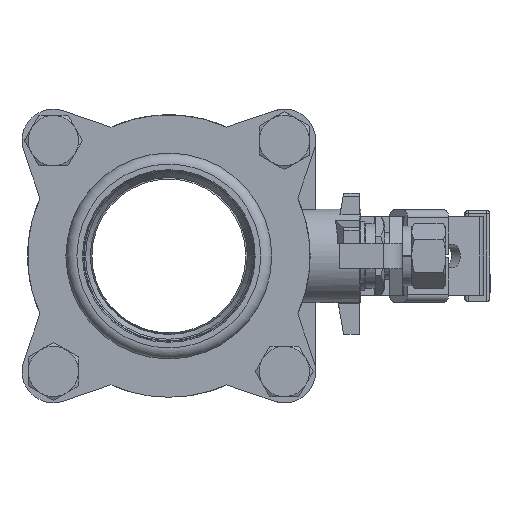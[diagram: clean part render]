
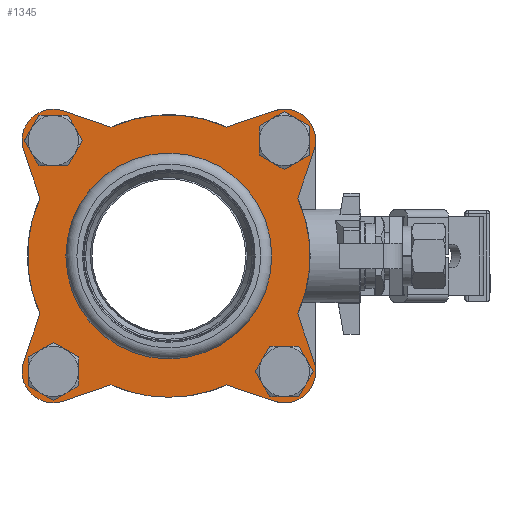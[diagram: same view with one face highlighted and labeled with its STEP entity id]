
A CAD part, front view. The second image highlights one B-rep face of the part: STEP entity #1345.
In plain terms, the highlighted planar face has unit normal (0, -1, 0) as drawn and (0, 0, -1) by its records, which use the part's own axes.
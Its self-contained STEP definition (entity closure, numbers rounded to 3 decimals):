
#1345=ADVANCED_FACE('',(#2648,#2649,#2650,#2651,#2652,#2653),#2654,.F.);
#2648=FACE_OUTER_BOUND('',#4056,.T.);
#2649=FACE_BOUND('',#4057,.T.);
#2650=FACE_BOUND('',#4058,.T.);
#2651=FACE_BOUND('',#4059,.T.);
#2652=FACE_BOUND('',#4060,.T.);
#2653=FACE_BOUND('',#4061,.T.);
#2654=PLANE('',#4062);
#4056=EDGE_LOOP('',(#6369,#6370,#6371,#6372,#6373,#6374,#6375,#6376,#6377,#6378,#6379,#6380,#6381,#6382,#6383,#6384));
#4057=EDGE_LOOP('',(#6385));
#4058=EDGE_LOOP('',(#6386));
#4059=EDGE_LOOP('',(#6387));
#4060=EDGE_LOOP('',(#6388));
#4061=EDGE_LOOP('',(#6389));
#4062=AXIS2_PLACEMENT_3D('',#6390,#6391,#6392);
#6369=ORIENTED_EDGE('',*,*,#8610,.F.);
#6370=ORIENTED_EDGE('',*,*,#8611,.F.);
#6371=ORIENTED_EDGE('',*,*,#8612,.F.);
#6372=ORIENTED_EDGE('',*,*,#8613,.F.);
#6373=ORIENTED_EDGE('',*,*,#8614,.F.);
#6374=ORIENTED_EDGE('',*,*,#8615,.F.);
#6375=ORIENTED_EDGE('',*,*,#8616,.F.);
#6376=ORIENTED_EDGE('',*,*,#8600,.F.);
#6377=ORIENTED_EDGE('',*,*,#8617,.F.);
#6378=ORIENTED_EDGE('',*,*,#8595,.F.);
#6379=ORIENTED_EDGE('',*,*,#8618,.F.);
#6380=ORIENTED_EDGE('',*,*,#8605,.F.);
#6381=ORIENTED_EDGE('',*,*,#8619,.F.);
#6382=ORIENTED_EDGE('',*,*,#8620,.F.);
#6383=ORIENTED_EDGE('',*,*,#8621,.F.);
#6384=ORIENTED_EDGE('',*,*,#8622,.F.);
#6385=ORIENTED_EDGE('',*,*,#8623,.F.);
#6386=ORIENTED_EDGE('',*,*,#8624,.F.);
#6387=ORIENTED_EDGE('',*,*,#8625,.F.);
#6388=ORIENTED_EDGE('',*,*,#8626,.F.);
#6389=ORIENTED_EDGE('',*,*,#8627,.F.);
#6390=CARTESIAN_POINT('',(-62.0,0.0,-45.85));
#6391=DIRECTION('',(0.0,0.,1.0));
#6392=DIRECTION('',(0.0,-1.0,0.));
#8595=EDGE_CURVE('',#10043,#10044,#10045,.T.);
#8600=EDGE_CURVE('',#10052,#10053,#10054,.T.);
#8605=EDGE_CURVE('',#10061,#10062,#10063,.T.);
#8610=EDGE_CURVE('',#10070,#10071,#10072,.T.);
#8611=EDGE_CURVE('',#10073,#10070,#10074,.T.);
#8612=EDGE_CURVE('',#10075,#10073,#10076,.T.);
#8613=EDGE_CURVE('',#10077,#10075,#10078,.T.);
#8614=EDGE_CURVE('',#10079,#10077,#10080,.T.);
#8615=EDGE_CURVE('',#10081,#10079,#10082,.T.);
#8616=EDGE_CURVE('',#10053,#10081,#10083,.T.);
#8617=EDGE_CURVE('',#10044,#10052,#10084,.T.);
#8618=EDGE_CURVE('',#10062,#10043,#10085,.T.);
#8619=EDGE_CURVE('',#10086,#10061,#10087,.T.);
#8620=EDGE_CURVE('',#10088,#10086,#10089,.T.);
#8621=EDGE_CURVE('',#10090,#10088,#10091,.T.);
#8622=EDGE_CURVE('',#10071,#10090,#10092,.T.);
#8623=EDGE_CURVE('',#10093,#10093,#10094,.T.);
#8624=EDGE_CURVE('',#10095,#10095,#10096,.T.);
#8625=EDGE_CURVE('',#10097,#10097,#10098,.T.);
#8626=EDGE_CURVE('',#10099,#10099,#10100,.T.);
#8627=EDGE_CURVE('',#10101,#10101,#10102,.T.);
#10043=VERTEX_POINT('',#12244);
#10044=VERTEX_POINT('',#12245);
#10045=LINE('',#12246,#12247);
#10052=VERTEX_POINT('',#12257);
#10053=VERTEX_POINT('',#12258);
#10054=LINE('',#12259,#12260);
#10061=VERTEX_POINT('',#12270);
#10062=VERTEX_POINT('',#12271);
#10063=LINE('',#12272,#12273);
#10070=VERTEX_POINT('',#12283);
#10071=VERTEX_POINT('',#12284);
#10072=CIRCLE('',#12285,10.);
#10073=VERTEX_POINT('',#12286);
#10074=LINE('',#12287,#12288);
#10075=VERTEX_POINT('',#12289);
#10076=CIRCLE('',#12290,45.0);
#10077=VERTEX_POINT('',#12291);
#10078=LINE('',#12292,#12293);
#10079=VERTEX_POINT('',#12294);
#10080=CIRCLE('',#12295,10.);
#10081=VERTEX_POINT('',#12296);
#10082=LINE('',#12297,#12298);
#10083=CIRCLE('',#12299,45.0);
#10084=CIRCLE('',#12300,10.);
#10085=CIRCLE('',#12301,45.0);
#10086=VERTEX_POINT('',#12302);
#10087=CIRCLE('',#12303,10.);
#10088=VERTEX_POINT('',#12304);
#10089=LINE('',#12305,#12306);
#10090=VERTEX_POINT('',#12307);
#10091=CIRCLE('',#12308,45.0);
#10092=LINE('',#12309,#12310);
#10093=VERTEX_POINT('',#12311);
#10094=CIRCLE('',#12312,5.5);
#10095=VERTEX_POINT('',#12313);
#10096=CIRCLE('',#12314,5.5);
#10097=VERTEX_POINT('',#12315);
#10098=CIRCLE('',#12316,5.5);
#10099=VERTEX_POINT('',#12317);
#10100=CIRCLE('',#12318,5.5);
#10101=VERTEX_POINT('',#12319);
#10102=CIRCLE('',#12320,29.0);
#12244=CARTESIAN_POINT('',(18.427,-41.054,-45.85));
#12245=CARTESIAN_POINT('',(33.528,-46.229,-45.85));
#12246=CARTESIAN_POINT('',(18.427,-41.054,-45.85));
#12247=VECTOR('',#14687,1.0);
#12257=CARTESIAN_POINT('',(46.229,-33.528,-45.85));
#12258=CARTESIAN_POINT('',(41.054,-18.427,-45.85));
#12259=CARTESIAN_POINT('',(46.229,-33.528,-45.85));
#12260=VECTOR('',#14691,1.0);
#12270=CARTESIAN_POINT('',(-33.528,-46.229,-45.85));
#12271=CARTESIAN_POINT('',(-18.427,-41.054,-45.85));
#12272=CARTESIAN_POINT('',(-33.528,-46.229,-45.85));
#12273=VECTOR('',#14695,1.0);
#12283=CARTESIAN_POINT('',(-33.528,46.229,-45.85));
#12284=CARTESIAN_POINT('',(-46.229,33.528,-45.85));
#12285=AXIS2_PLACEMENT_3D('',#14699,#14700,#14701);
#12286=CARTESIAN_POINT('',(-18.427,41.054,-45.85));
#12287=CARTESIAN_POINT('',(-18.427,41.054,-45.85));
#12288=VECTOR('',#14702,1.0);
#12289=CARTESIAN_POINT('',(18.427,41.054,-45.85));
#12290=AXIS2_PLACEMENT_3D('',#14703,#14704,#14705);
#12291=CARTESIAN_POINT('',(33.528,46.229,-45.85));
#12292=CARTESIAN_POINT('',(33.528,46.229,-45.85));
#12293=VECTOR('',#14706,1.0);
#12294=CARTESIAN_POINT('',(46.229,33.528,-45.85));
#12295=AXIS2_PLACEMENT_3D('',#14707,#14708,#14709);
#12296=CARTESIAN_POINT('',(41.054,18.427,-45.85));
#12297=CARTESIAN_POINT('',(41.054,18.427,-45.85));
#12298=VECTOR('',#14710,1.0);
#12299=AXIS2_PLACEMENT_3D('',#14711,#14712,#14713);
#12300=AXIS2_PLACEMENT_3D('',#14714,#14715,#14716);
#12301=AXIS2_PLACEMENT_3D('',#14717,#14718,#14719);
#12302=CARTESIAN_POINT('',(-46.229,-33.528,-45.85));
#12303=AXIS2_PLACEMENT_3D('',#14720,#14721,#14722);
#12304=CARTESIAN_POINT('',(-41.054,-18.427,-45.85));
#12305=CARTESIAN_POINT('',(-41.054,-18.427,-45.85));
#12306=VECTOR('',#14723,1.0);
#12307=CARTESIAN_POINT('',(-41.054,18.427,-45.85));
#12308=AXIS2_PLACEMENT_3D('',#14724,#14725,#14726);
#12309=CARTESIAN_POINT('',(-46.229,33.528,-45.85));
#12310=VECTOR('',#14727,1.0);
#12311=CARTESIAN_POINT('',(-36.77,-31.27,-45.85));
#12312=AXIS2_PLACEMENT_3D('',#14728,#14729,#14730);
#12313=CARTESIAN_POINT('',(-36.77,42.27,-45.85));
#12314=AXIS2_PLACEMENT_3D('',#14731,#14732,#14733);
#12315=CARTESIAN_POINT('',(36.77,42.27,-45.85));
#12316=AXIS2_PLACEMENT_3D('',#14734,#14735,#14736);
#12317=CARTESIAN_POINT('',(36.77,-31.27,-45.85));
#12318=AXIS2_PLACEMENT_3D('',#14737,#14738,#14739);
#12319=CARTESIAN_POINT('',(0.0,29.0,-45.85));
#12320=AXIS2_PLACEMENT_3D('',#14740,#14741,#14742);
#14687=DIRECTION('',(0.946,-0.324,0.0));
#14691=DIRECTION('',(-0.324,0.946,0.0));
#14695=DIRECTION('',(0.946,0.324,0.0));
#14699=CARTESIAN_POINT('',(-36.77,36.77,-45.85));
#14700=DIRECTION('',(0.0,0.0,1.0));
#14701=DIRECTION('',(0.0,-1.0,0.0));
#14702=DIRECTION('',(-0.946,0.324,0.0));
#14703=CARTESIAN_POINT('',(0.,0.,-45.85));
#14704=DIRECTION('',(0.0,0.0,1.0));
#14705=DIRECTION('',(0.0,-1.0,0.0));
#14706=DIRECTION('',(-0.946,-0.324,0.0));
#14707=CARTESIAN_POINT('',(36.77,36.77,-45.85));
#14708=DIRECTION('',(0.0,0.0,1.0));
#14709=DIRECTION('',(0.0,-1.0,0.0));
#14710=DIRECTION('',(0.324,0.946,0.0));
#14711=CARTESIAN_POINT('',(0.,0.,-45.85));
#14712=DIRECTION('',(0.0,0.0,1.0));
#14713=DIRECTION('',(0.0,-1.0,0.0));
#14714=CARTESIAN_POINT('',(36.77,-36.77,-45.85));
#14715=DIRECTION('',(0.0,0.0,1.0));
#14716=DIRECTION('',(0.0,-1.0,0.0));
#14717=CARTESIAN_POINT('',(0.,0.,-45.85));
#14718=DIRECTION('',(0.0,0.0,1.0));
#14719=DIRECTION('',(0.0,-1.0,0.0));
#14720=CARTESIAN_POINT('',(-36.77,-36.77,-45.85));
#14721=DIRECTION('',(0.0,0.0,1.0));
#14722=DIRECTION('',(0.0,-1.0,0.0));
#14723=DIRECTION('',(-0.324,-0.946,0.0));
#14724=CARTESIAN_POINT('',(0.,0.,-45.85));
#14725=DIRECTION('',(0.0,0.0,1.0));
#14726=DIRECTION('',(0.0,-1.0,0.0));
#14727=DIRECTION('',(0.324,-0.946,0.0));
#14728=CARTESIAN_POINT('',(-36.77,-36.77,-45.85));
#14729=DIRECTION('',(0.0,0.0,-1.0));
#14730=DIRECTION('',(0.0,1.0,0.0));
#14731=CARTESIAN_POINT('',(-36.77,36.77,-45.85));
#14732=DIRECTION('',(0.0,0.0,-1.0));
#14733=DIRECTION('',(0.0,1.0,0.0));
#14734=CARTESIAN_POINT('',(36.77,36.77,-45.85));
#14735=DIRECTION('',(0.0,0.0,-1.0));
#14736=DIRECTION('',(0.0,1.0,0.0));
#14737=CARTESIAN_POINT('',(36.77,-36.77,-45.85));
#14738=DIRECTION('',(0.0,0.0,-1.0));
#14739=DIRECTION('',(0.0,1.0,0.0));
#14740=CARTESIAN_POINT('',(0.0,0.0,-45.85));
#14741=DIRECTION('',(0.0,0.,-1.0));
#14742=DIRECTION('',(0.0,1.0,0.));
